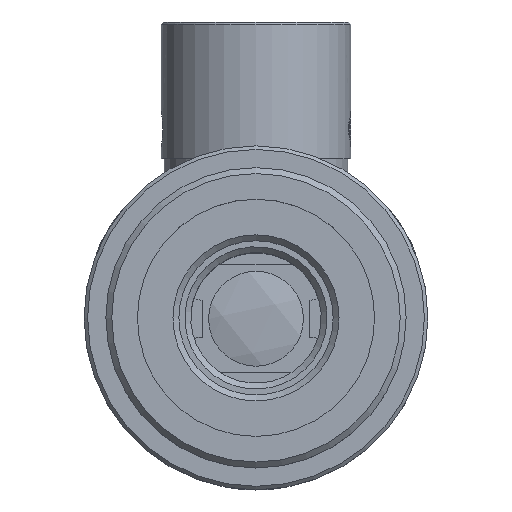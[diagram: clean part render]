
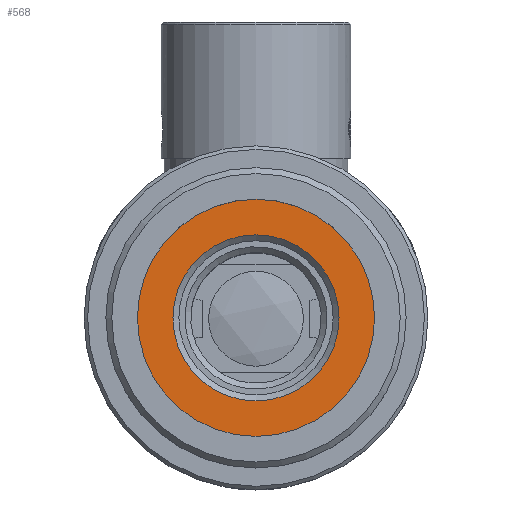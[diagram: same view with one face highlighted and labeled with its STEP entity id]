
A CAD part, top view. The second image highlights one B-rep face of the part: STEP entity #568.
In plain terms, the highlighted planar face has unit normal (0, 0, 1).
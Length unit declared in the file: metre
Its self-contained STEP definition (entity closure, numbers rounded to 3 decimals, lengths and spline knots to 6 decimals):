
#568=ADVANCED_FACE('0:51757',(#1442,#1443),#1444,.F.);
#1442=FACE_BOUND('',#2768,.T.);
#1443=FACE_OUTER_BOUND('',#2769,.T.);
#1444=PLANE('',#2770);
#2768=EDGE_LOOP('',(#4396));
#2769=EDGE_LOOP('',(#4397));
#2770=AXIS2_PLACEMENT_3D('',#4398,#4399,#4400);
#4396=ORIENTED_EDGE('',*,*,#6779,.T.);
#4397=ORIENTED_EDGE('',*,*,#6780,.F.);
#4398=CARTESIAN_POINT('',(-0.005501,0.009136,0.0559));
#4399=DIRECTION('',(0.,0.0,-1.0));
#4400=DIRECTION('',(-1.0,0.0,0.));
#6779=EDGE_CURVE('0:53125',#7990,#7990,#7991,.T.);
#6780=EDGE_CURVE('0:53092',#7992,#7992,#7993,.T.);
#7990=VERTEX_POINT('',#10051);
#7991=CIRCLE('',#10052,0.007);
#7992=VERTEX_POINT('',#10053);
#7993=CIRCLE('',#10054,0.01);
#10051=CARTESIAN_POINT('',(-0.012501,-0.000864,0.0559));
#10052=AXIS2_PLACEMENT_3D('',#11973,#11974,#11975);
#10053=CARTESIAN_POINT('',(-0.015501,-0.000864,0.0559));
#10054=AXIS2_PLACEMENT_3D('',#11976,#11977,#11978);
#11973=CARTESIAN_POINT('',(-0.005501,-0.000864,0.0559));
#11974=DIRECTION('',(0.,0.0,-1.0));
#11975=DIRECTION('',(-1.0,0.0,0.));
#11976=CARTESIAN_POINT('',(-0.005501,-0.000864,0.0559));
#11977=DIRECTION('',(0.,0.0,-1.0));
#11978=DIRECTION('',(-1.0,0.0,0.));
